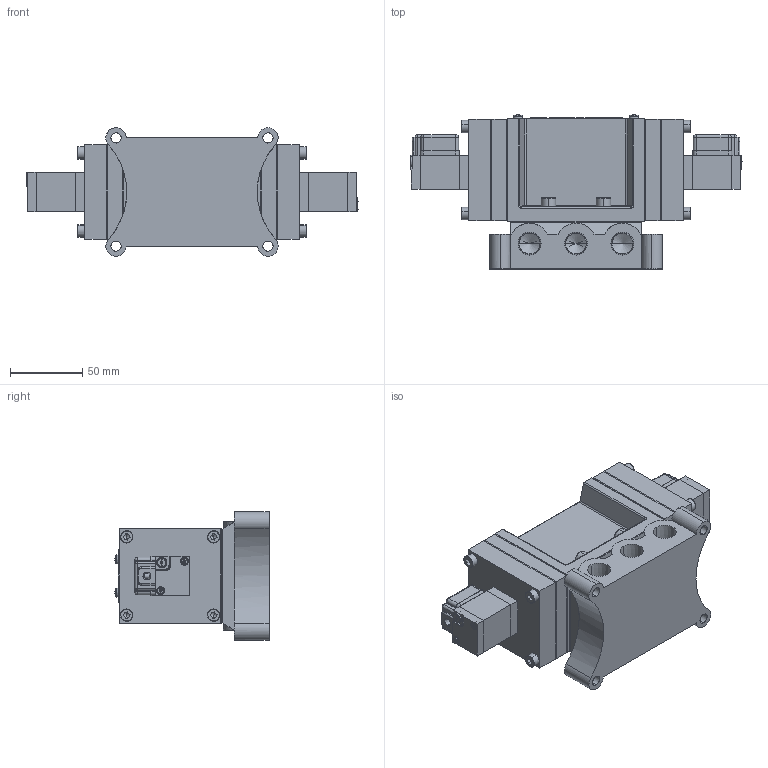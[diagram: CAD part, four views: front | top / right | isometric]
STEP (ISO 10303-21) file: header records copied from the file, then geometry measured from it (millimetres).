
FILE_DESCRIPTION (( 'STEP AP203' ), '1' );
FILE_NAME ('PMD(E)3410#-03-#G#.STEP', '2016-03-09T05:47:20', ( 'Sam Lin' ), ( '' ), 'SwSTEP 2.0', 'SolidWorks 2013', '' );
FILE_SCHEMA (( 'CONFIG_CONTROL_DESIGN' ));
Length unit declared in the file: metre
Products named in the file (18): PM10-MARK-2410; ISO 4762 M5 x 20; PMS2410-6; PM06-C3-M4; PMS2410-7; ISO 4762 M6 x 20; PMS2410-8; PM06-C1; PMS2410-1; PMD3410-1; PM06-C4; PMS2410-2; PMD(E)3410#-03-#G#; PM06-C6-M3; PM06-C5; PMS2410-3; PM06-G1; PMS2410-4
Assembly tree (43 placements, depth 2):
  PMD(E)3410#-03-#G#
    PMS2410-1
    PMS2410-2
    PMS2410-3  x4
    PMS2410-4  x2
    ISO 4762 M5 x 20  x8
    PM06-C3-M4  x4
    ISO 4762 M6 x 20  x4
    PM06-C1  x2
    PM06-C4  x2
    PM06-C6-M3  x4
    PM06-C5  x2
    PM06-G1  x2
    PM10-MARK-2410
    PMS2410-6
    PMS2410-7
    PMS2410-8  x2
    PMD3410-1  x2
Bounding box: 229 x 106.35 x 88.61 mm (x, y, z)
Volume: 847797.2 mm3; surface area: 214423.1 mm2
Topology: 49 solids, 49 shells, 1194 faces, 2857 edges, 1765 vertices
Faces by surface type: plane 598, cylinder 310, cone 142, bspline 136, torus 8
Entity records: 21491 total; most frequent: CARTESIAN_POINT 6552, ORIENTED_EDGE 2536, DIRECTION 2529, EDGE_CURVE 1268, AXIS2_PLACEMENT_3D 918, VERTEX_POINT 811, VECTOR 693, LINE 693
